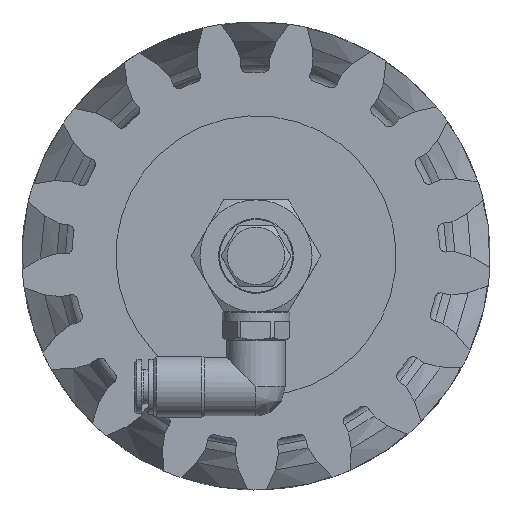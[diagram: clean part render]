
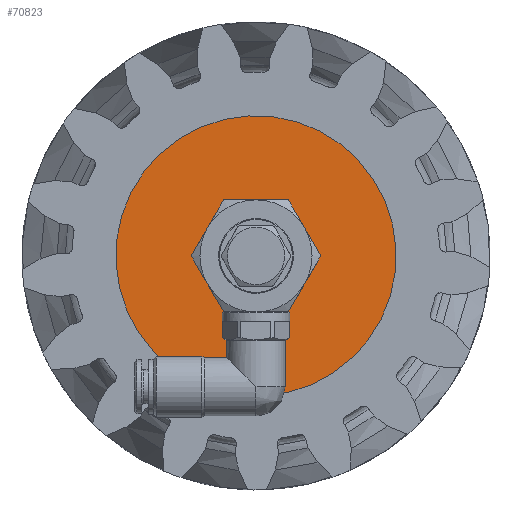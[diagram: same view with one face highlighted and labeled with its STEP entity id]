
A CAD part, front view. The second image highlights one B-rep face of the part: STEP entity #70823.
In plain terms, the highlighted planar face has unit normal (0, -1, 0) as drawn and (0, 0, 1) by its records, which use the part's own axes.
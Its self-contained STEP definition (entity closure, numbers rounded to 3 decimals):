
#9971 = AXIS2_PLACEMENT_3D ( 'NONE', #52909, #71327, #53304 ) ;
#10651 = ORIENTED_EDGE ( 'NONE', *, *, #47842, .T. ) ;
#13067 = CARTESIAN_POINT ( 'NONE',  ( 0., 30., 0. ) ) ;
#15497 = VERTEX_POINT ( 'NONE', #72064 ) ;
#16441 = DIRECTION ( 'NONE',  ( 1., 0., 0. ) ) ;
#19641 = FACE_BOUND ( 'NONE', #47088, .T. ) ;
#20468 = PLANE ( 'NONE',  #38430 ) ;
#31946 = DIRECTION ( 'NONE',  ( -1., 0., 0. ) ) ;
#33174 = FACE_OUTER_BOUND ( 'NONE', #70852, .T. ) ;
#38430 = AXIS2_PLACEMENT_3D ( 'NONE', #13067, #69223, #31946 ) ;
#41854 = CARTESIAN_POINT ( 'NONE',  ( 0., 0., 0. ) ) ;
#45042 = CARTESIAN_POINT ( 'NONE',  ( 30., 0., 0. ) ) ;
#47088 = EDGE_LOOP ( 'NONE', ( #66092 ) ) ;
#47842 = EDGE_CURVE ( 'NONE', #52009, #52009, #57054, .T. ) ;
#52009 = VERTEX_POINT ( 'NONE', #45042 ) ;
#52909 = CARTESIAN_POINT ( 'NONE',  ( 0., 0., 0. ) ) ;
#53304 = DIRECTION ( 'NONE',  ( 1., 0., 0. ) ) ;
#57054 = CIRCLE ( 'NONE', #9971, 30. ) ;
#63201 = AXIS2_PLACEMENT_3D ( 'NONE', #41854, #71779, #16441 ) ;
#66092 = ORIENTED_EDGE ( 'NONE', *, *, #68302, .F. ) ;
#68302 = EDGE_CURVE ( 'NONE', #15497, #15497, #68481, .T. ) ;
#68481 = CIRCLE ( 'NONE', #63201, 5.286 ) ;
#69223 = DIRECTION ( 'NONE',  ( 0., 0., -1. ) ) ;
#70823 = ADVANCED_FACE ( 'NONE', ( #19641, #33174 ), #20468, .F. ) ;
#70852 = EDGE_LOOP ( 'NONE', ( #10651 ) ) ;
#71327 = DIRECTION ( 'NONE',  ( 0., 0., 1. ) ) ;
#71779 = DIRECTION ( 'NONE',  ( 0., 0., 1. ) ) ;
#72064 = CARTESIAN_POINT ( 'NONE',  ( 5.286, 0., 0. ) ) ;
